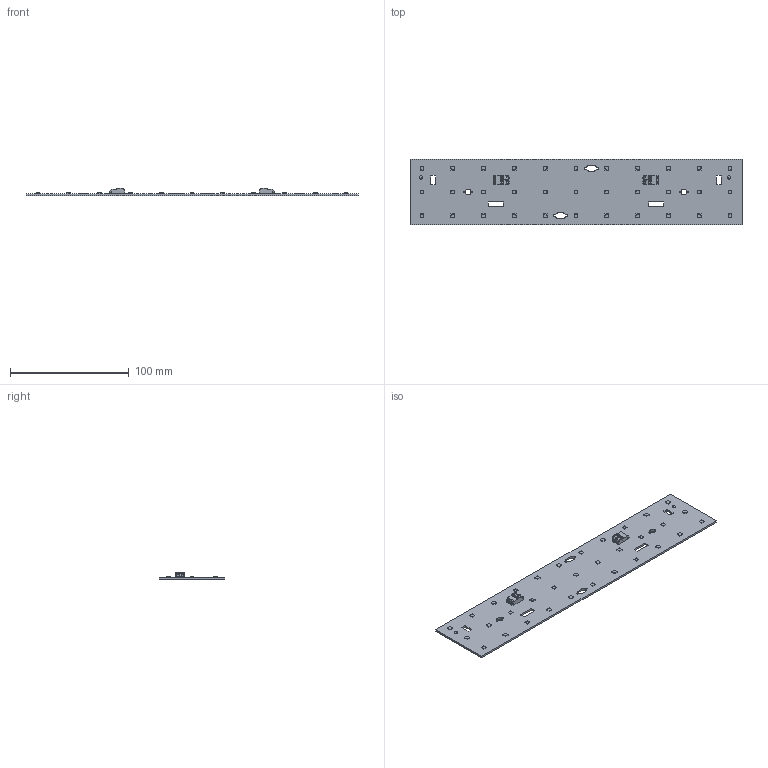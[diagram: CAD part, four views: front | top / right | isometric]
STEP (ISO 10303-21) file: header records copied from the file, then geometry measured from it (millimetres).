
FILE_DESCRIPTION(/* description */ (''),/* implementation_level */ '2;1');
FILE_NAME(/* name */ 'C:\Data\Vault\LE-TPD\9290 029 27000_Fortimo LED Line 1ft HF 3R HV5\Fortimo LED Line 1ft HF 3R HV5 2021-07-19.stp',/* time_stamp */ '2021-07-20T13:36:41+02:00',/* author */ ('plr05507'),/* organization */ (''),/* preprocessor_version */ 'ST-DEVELOPER v16.5',/* originating_system */ 'Autodesk Inventor 2017',/* authorisation */ '');
FILE_SCHEMA (('AUTOMOTIVE_DESIGN { 1 0 10303 214 3 1 1 }'));
Length unit declared in the file: millimetre
Products named in the file (1): 4422-953-95140
Bounding box: 280 x 55 x 6.1 mm (x, y, z)
Volume: 24948.5 mm3; surface area: 32961.2 mm2
Topology: 1 solids, 1 shells, 672 faces, 2038 edges, 1444 vertices
Faces by surface type: plane 500, cylinder 166, sphere 6
Full cylindrical faces by diameter (mm): 2.25 x4, 3 x2
Entity records: 23901 total; most frequent: CARTESIAN_POINT 4321, ORIENTED_EDGE 4048, DIRECTION 3803, EDGE_CURVE 2024, LINE 1539, VECTOR 1539, VERTEX_POINT 1438, AXIS2_PLACEMENT_3D 1132
